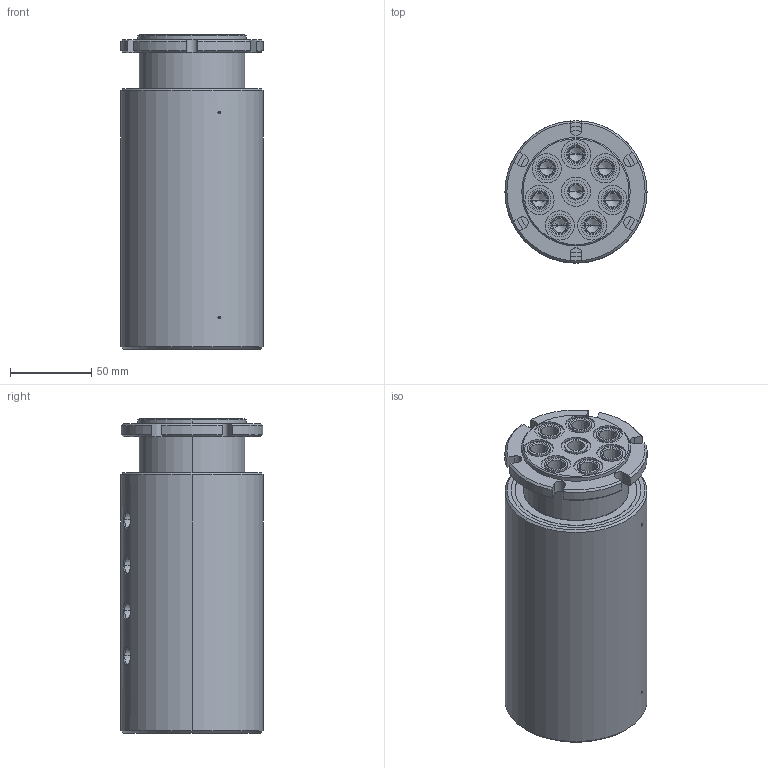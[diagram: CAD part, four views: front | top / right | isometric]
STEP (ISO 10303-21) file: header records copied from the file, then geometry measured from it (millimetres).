
FILE_DESCRIPTION (( 'STEP AP214' ), '1' );
FILE_NAME ('GP(M)-180.STEP', '2013-02-05T22:09:31', ( '' ), ( '' ), 'SwSTEP 2.0', 'SolidWorks 2011', '' );
FILE_SCHEMA (( 'AUTOMOTIVE_DESIGN' ));
Length unit declared in the file: inch
Products named in the file (1): GP(M)-180
Bounding box: 87.3 x 87.3 x 193.37 mm (x, y, z)
Volume: 1056256.7 mm3; surface area: 78523.4 mm2
Topology: 1 solids, 1 shells, 327 faces, 780 edges, 474 vertices
Faces by surface type: cylinder 128, cone 118, plane 63, bspline 16, torus 2
Entity records: 10812 total; most frequent: CARTESIAN_POINT 3078, DIRECTION 1589, ORIENTED_EDGE 1460, EDGE_CURVE 730, AXIS2_PLACEMENT_3D 653, VERTEX_POINT 474, EDGE_LOOP 396, CIRCLE 341
